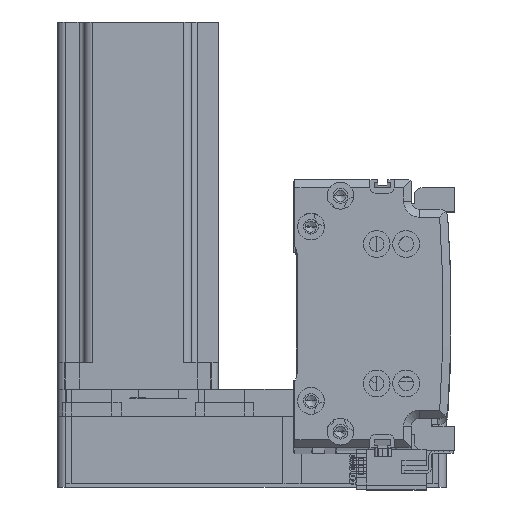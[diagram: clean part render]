
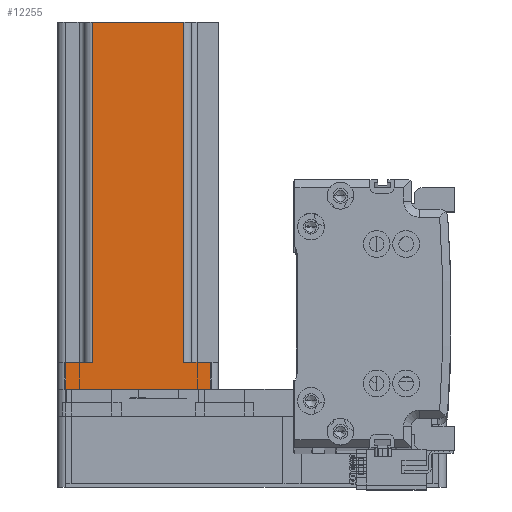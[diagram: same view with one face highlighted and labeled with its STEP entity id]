
A CAD part, top view. The second image highlights one B-rep face of the part: STEP entity #12255.
In plain terms, the highlighted planar face has unit normal (0, 0, 1) as drawn and (0, 1, 0) by its records, which use the part's own axes.
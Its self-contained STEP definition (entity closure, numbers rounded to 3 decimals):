
#354 = EDGE_CURVE ( 'NONE', #21906, #708, #19716, .T. ) ;
#605 = CARTESIAN_POINT ( 'NONE',  ( -27., 30., 0. ) ) ;
#708 = VERTEX_POINT ( 'NONE', #45852 ) ;
#1122 = DIRECTION ( 'NONE',  ( -1., 0., 0. ) ) ;
#1630 = LINE ( 'NONE', #27243, #11866 ) ;
#1717 = VECTOR ( 'NONE', #52655, 1000. ) ;
#2401 = PLANE ( 'NONE',  #46468 ) ;
#2483 = CARTESIAN_POINT ( 'NONE',  ( -20., 30., 10. ) ) ;
#3995 = VERTEX_POINT ( 'NONE', #48084 ) ;
#6514 = VERTEX_POINT ( 'NONE', #10875 ) ;
#7004 = CARTESIAN_POINT ( 'NONE',  ( 17., 30., 10. ) ) ;
#7052 = EDGE_CURVE ( 'NONE', #6514, #39362, #25191, .T. ) ;
#7812 = ORIENTED_EDGE ( 'NONE', *, *, #7052, .F. ) ;
#8142 = VECTOR ( 'NONE', #24371, 1000. ) ;
#10875 = CARTESIAN_POINT ( 'NONE',  ( 27., 30., 10. ) ) ;
#11384 = CARTESIAN_POINT ( 'NONE',  ( 30., 30., 137. ) ) ;
#11754 = VECTOR ( 'NONE', #17571, 1000. ) ;
#11866 = VECTOR ( 'NONE', #1122, 1000. ) ;
#12255 = ADVANCED_FACE ( 'NONE', ( #53880 ), #2401, .F. ) ;
#12667 = EDGE_LOOP ( 'NONE', ( #39558, #52259, #17982, #46614, #7812, #45578, #42171, #17812 ) ) ;
#13147 = EDGE_CURVE ( 'NONE', #50877, #22012, #54100, .T. ) ;
#13193 = VECTOR ( 'NONE', #16717, 1000. ) ;
#13638 = VECTOR ( 'NONE', #32348, 1000. ) ;
#15778 = DIRECTION ( 'NONE',  ( 1., 0., 0. ) ) ;
#16227 = LINE ( 'NONE', #39516, #27823 ) ;
#16717 = DIRECTION ( 'NONE',  ( 0., 0., -1. ) ) ;
#16906 = EDGE_CURVE ( 'NONE', #708, #19647, #16227, .T. ) ;
#17571 = DIRECTION ( 'NONE',  ( 0., 0., 1. ) ) ;
#17736 = EDGE_CURVE ( 'NONE', #6514, #50877, #24893, .T. ) ;
#17812 = ORIENTED_EDGE ( 'NONE', *, *, #22560, .T. ) ;
#17982 = ORIENTED_EDGE ( 'NONE', *, *, #39112, .F. ) ;
#19647 = VERTEX_POINT ( 'NONE', #37707 ) ;
#19716 = LINE ( 'NONE', #2483, #8142 ) ;
#20683 = VECTOR ( 'NONE', #46322, 1000. ) ;
#21906 = VERTEX_POINT ( 'NONE', #38973 ) ;
#21930 = DIRECTION ( 'NONE',  ( 0., 0., 1. ) ) ;
#22012 = VERTEX_POINT ( 'NONE', #605 ) ;
#22560 = EDGE_CURVE ( 'NONE', #22012, #21906, #34944, .T. ) ;
#22972 = CARTESIAN_POINT ( 'NONE',  ( 20., 30., 10. ) ) ;
#24371 = DIRECTION ( 'NONE',  ( 1., 0., 0. ) ) ;
#24893 = LINE ( 'NONE', #25986, #1717 ) ;
#25191 = LINE ( 'NONE', #22972, #13638 ) ;
#25986 = CARTESIAN_POINT ( 'NONE',  ( 27., 30., 137. ) ) ;
#27243 = CARTESIAN_POINT ( 'NONE',  ( 30., 30., 137. ) ) ;
#27823 = VECTOR ( 'NONE', #21930, 1000. ) ;
#32348 = DIRECTION ( 'NONE',  ( -1., 0., 0. ) ) ;
#34944 = LINE ( 'NONE', #43739, #11754 ) ;
#36386 = EDGE_CURVE ( 'NONE', #3995, #39362, #47952, .T. ) ;
#37707 = CARTESIAN_POINT ( 'NONE',  ( -17., 30., 137. ) ) ;
#38286 = CARTESIAN_POINT ( 'NONE',  ( 17., 30., 137. ) ) ;
#38973 = CARTESIAN_POINT ( 'NONE',  ( -27., 30., 10. ) ) ;
#39112 = EDGE_CURVE ( 'NONE', #3995, #19647, #1630, .T. ) ;
#39362 = VERTEX_POINT ( 'NONE', #7004 ) ;
#39516 = CARTESIAN_POINT ( 'NONE',  ( -17., 30., 137. ) ) ;
#39558 = ORIENTED_EDGE ( 'NONE', *, *, #354, .T. ) ;
#41870 = DIRECTION ( 'NONE',  ( 0., -1., 0. ) ) ;
#42171 = ORIENTED_EDGE ( 'NONE', *, *, #13147, .T. ) ;
#43739 = CARTESIAN_POINT ( 'NONE',  ( -27., 30., 137. ) ) ;
#45168 = CARTESIAN_POINT ( 'NONE',  ( 27., 30., 0. ) ) ;
#45578 = ORIENTED_EDGE ( 'NONE', *, *, #17736, .T. ) ;
#45852 = CARTESIAN_POINT ( 'NONE',  ( -17., 30., 10. ) ) ;
#46322 = DIRECTION ( 'NONE',  ( -1., 0., 0. ) ) ;
#46468 = AXIS2_PLACEMENT_3D ( 'NONE', #11384, #41870, #15778 ) ;
#46510 = CARTESIAN_POINT ( 'NONE',  ( 30., 30., 0. ) ) ;
#46614 = ORIENTED_EDGE ( 'NONE', *, *, #36386, .T. ) ;
#47952 = LINE ( 'NONE', #38286, #13193 ) ;
#48084 = CARTESIAN_POINT ( 'NONE',  ( 17., 30., 137. ) ) ;
#50877 = VERTEX_POINT ( 'NONE', #45168 ) ;
#52259 = ORIENTED_EDGE ( 'NONE', *, *, #16906, .T. ) ;
#52655 = DIRECTION ( 'NONE',  ( 0., 0., -1. ) ) ;
#53880 = FACE_OUTER_BOUND ( 'NONE', #12667, .T. ) ;
#54100 = LINE ( 'NONE', #46510, #20683 ) ;
